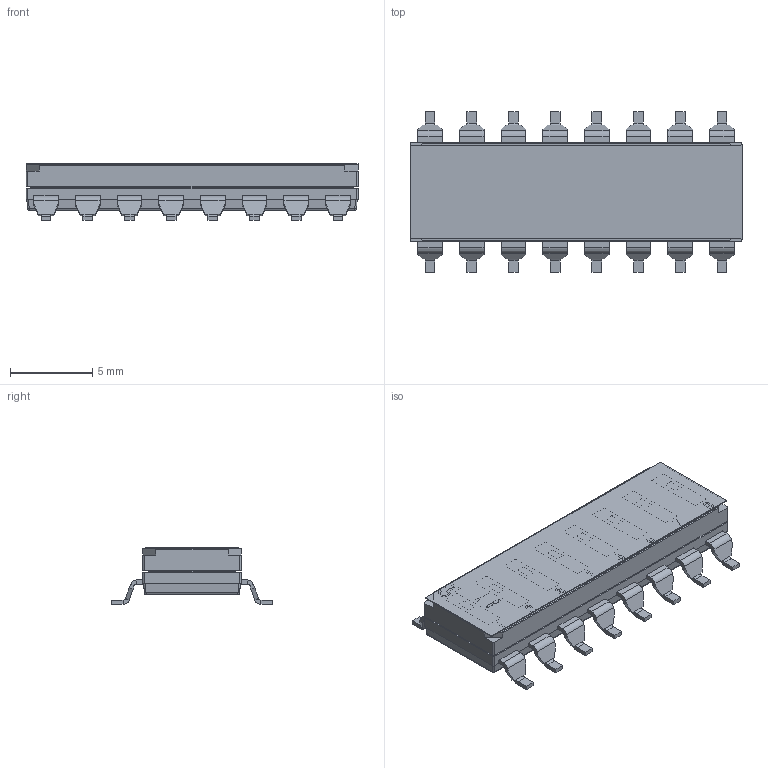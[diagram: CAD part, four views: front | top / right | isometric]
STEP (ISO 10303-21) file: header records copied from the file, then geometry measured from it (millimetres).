
FILE_DESCRIPTION (( 'STEP AP203' ), '1' );
FILE_NAME ('SBS 5008T.STEP', '2017-05-08T06:53:00', ( 'Windows 使用者' ), ( 'DIPTRONICS' ), 'SwSTEP 2.0', 'SolidWorks 2008', '' );
FILE_SCHEMA (( 'CONFIG_CONTROL_DESIGN' ));
Products named in the file (1): SBS 5008T
Bounding box: 20.22 x 9.8 x 3.45 mm (x, y, z)
Volume: 307.9 mm3; surface area: 1578.3 mm2
Topology: 20 solids, 20 shells, 3691 faces, 9348 edges, 5764 vertices
Faces by surface type: plane 2340, cylinder 1158, bspline 77, torus 48, sphere 36, cone 32
Entity records: 112939 total; most frequent: CARTESIAN_POINT 23893, ORIENTED_EDGE 18696, DIRECTION 18252, EDGE_CURVE 9348, VECTOR 6894, LINE 6894, VERTEX_POINT 5764, AXIS2_PLACEMENT_3D 5679
